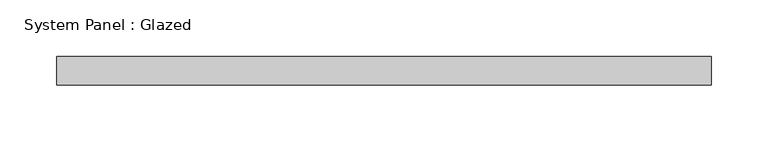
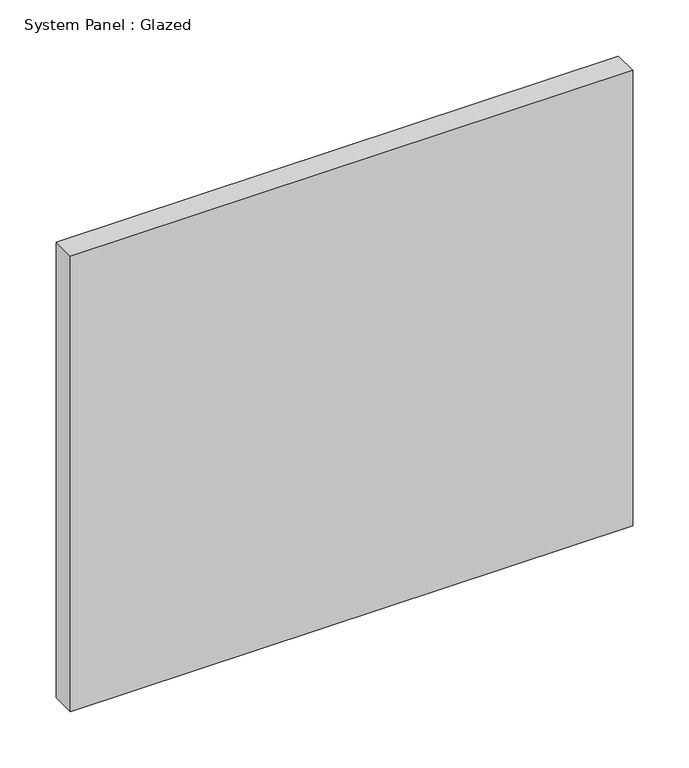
"""IFC4 building model written with IfcOpenShell, lengths in millimetres: plate geometry, System Panel : Glazed."""

from ifc_helpers import new_model, si_unit, origin, origin_with_axes, place, context, project, spatial, polyline, outline, extrude, source, transform, mapped, element, save


def system_panel_glazed_33ac10ee(model_context):
    return source(origin(), model_context, "Body", "SweptSolid", [
        extrude(outline(polyline([(289.2505323, -12.7), (-289.2505323, -12.7), (-289.2505323, 12.7), (289.2505323, 12.7), (289.2505323, -12.7)])), origin_with_axes(), (0.0, 0.0, 1.0), 495.3),
    ])


if __name__ == "__main__":
    model = new_model("IFC4")
    model_context = context("Model", 3, world=origin())
    ifc_project = project(units=[si_unit("LENGTHUNIT", "METRE", prefix="MILLI")], contexts=[model_context])
    site = spatial("IfcSite", under=ifc_project)
    building = spatial("IfcBuilding", under=site)
    placement = place(None, origin())
    system_panel_glazed_shape = system_panel_glazed_33ac10ee(model_context)
    element("IfcPlate", 1, ObjectType="System Panel : Glazed", at=placement, inside=building, context=model_context, shape_type="MappedRepresentation", body=[
        mapped(system_panel_glazed_shape, transform((0.0, 0.0, 0.0), x_axis=(1.0, 0.0, 0.0), y_axis=(0.0, 1.0, 0.0), z_axis=(0.0, 0.0, 1.0))),
    ])
    save(model, "model.ifc")
